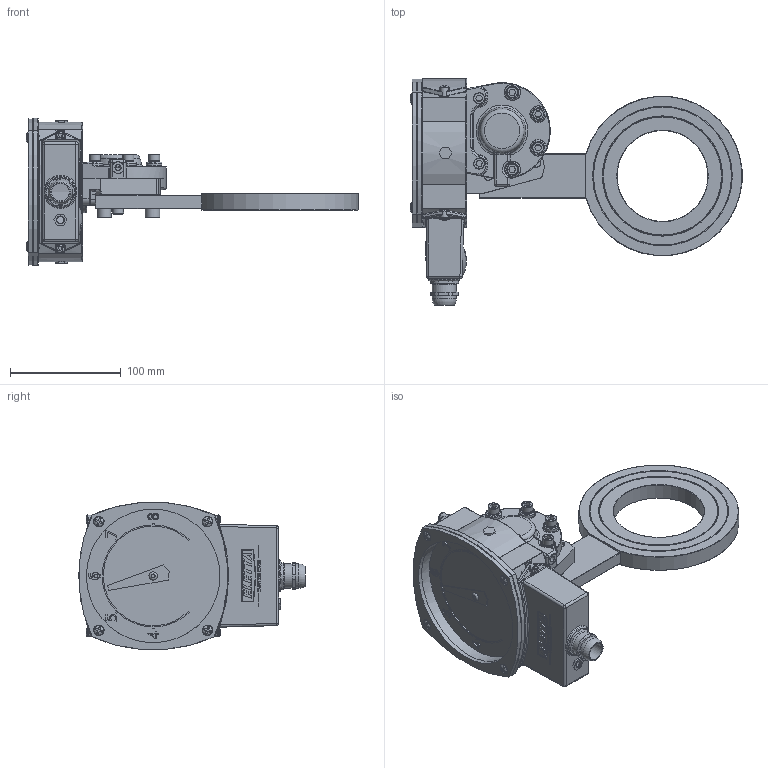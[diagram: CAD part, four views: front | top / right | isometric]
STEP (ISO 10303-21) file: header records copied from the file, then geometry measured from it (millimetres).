
FILE_DESCRIPTION(/* description */ ('Alibre Inc.'),/* implementation_level */ '2;1');
FILE_NAME(/* name */ 'export0',/* time_stamp */ '2012-10-19T10:53:13+02:00',/* author */ (''),/* organization */ (''),/* preprocessor_version */ 'ST-DEVELOPER v14',/* originating_system */ 'Alibre',/* authorisation */ '');
FILE_SCHEMA (('CONFIG_CONTROL_DESIGN'));
Length unit declared in the file: centimetre
Products named in the file (19): ID_1; ID_2; ID_3; ID_4; ID_5; ID_6; ID_7; ID_8; ID_9; ID_10; ID_11; ID_12; ID_13; ID_14; ID_15
Bounding box: 299.48 x 204.33 x 132.76 mm (x, y, z)
Volume: 631618.1 mm3; surface area: 252129.2 mm2
Topology: 31 solids, 31 shells, 1723 faces, 4150 edges, 2558 vertices
Faces by surface type: plane 766, bspline 365, cylinder 322, torus 158, cone 86, sphere 26
Full cylindrical faces by diameter (mm): 3.9 x2, 5 x18, 5.2 x2, 5.5 x5, 5.541 x2, 6 x28, 6.35 x2, 6.5 x7, 8 x7, 8.5 x2, 9.6 x6, 10 x11, 10.5 x1, 12 x3, 13 x2, 14 x3, 16 x1, 19.5 x1, 22 x2, 22.5 x4, 25 x1, 29 x1, 31 x1, 82 x1, 107 x2, 108 x2, 120.5 x3, 123.4 x1, 125 x2, 126 x2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
Entity records: 60556 total; most frequent: CARTESIAN_POINT 28551, ORIENTED_EDGE 6474, DIRECTION 4845, EDGE_CURVE 3237, VERTEX_POINT 2118, AXIS2_PLACEMENT_3D 2016, EDGE_LOOP 1787, FACE_BOUND 1787
